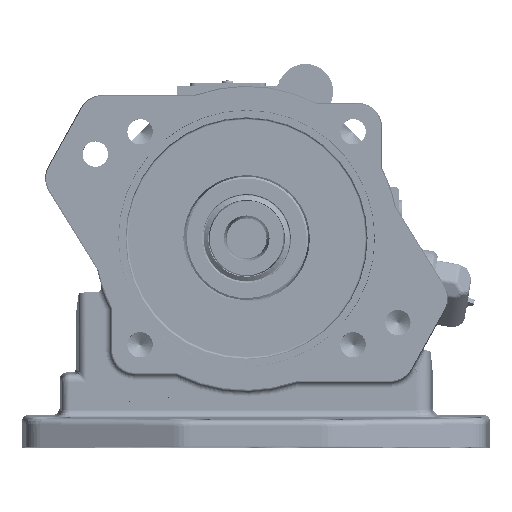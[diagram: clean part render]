
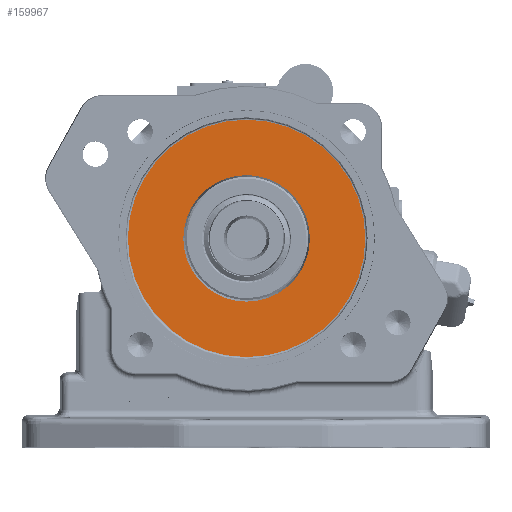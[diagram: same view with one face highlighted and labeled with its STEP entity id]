
A CAD part, top view. The second image highlights one B-rep face of the part: STEP entity #159967.
In plain terms, the highlighted planar face has unit normal (0, 0, 1) as drawn and (0, 0, -1) by its records, which use the part's own axes.
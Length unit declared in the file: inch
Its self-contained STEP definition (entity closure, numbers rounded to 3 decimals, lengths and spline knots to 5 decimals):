
#1433 = CARTESIAN_POINT ( 'NONE',  ( 1.5019, -3.5484, 0.2921 ) ) ;
#2120 = DIRECTION ( 'NONE',  ( 0., 0., 1. ) ) ;
#9717 = EDGE_CURVE ( 'NONE', #13528, #71505, #115402, .T. ) ;
#13528 = VERTEX_POINT ( 'NONE', #44363 ) ;
#16499 = CIRCLE ( 'NONE', #76186, 1.05079 ) ;
#27671 = DIRECTION ( 'NONE',  ( 0., 0., 1. ) ) ;
#34186 = DIRECTION ( 'NONE',  ( 0., 0., -1. ) ) ;
#43147 = EDGE_LOOP ( 'NONE', ( #145516, #135644 ) ) ;
#44363 = CARTESIAN_POINT ( 'NONE',  ( 4.52369, -3.5484, 0.2921 ) ) ;
#46418 = CARTESIAN_POINT ( 'NONE',  ( 2.42211, -3.5484, 0.2921 ) ) ;
#47348 = AXIS2_PLACEMENT_3D ( 'NONE', #60820, #154120, #189329 ) ;
#52901 = DIRECTION ( 'NONE',  ( 1., 0., 0. ) ) ;
#58198 = EDGE_LOOP ( 'NONE', ( #171182, #133157 ) ) ;
#60820 = CARTESIAN_POINT ( 'NONE',  ( 5.4739, -3.5484, 0.2921 ) ) ;
#68852 = VERTEX_POINT ( 'NONE', #1433 ) ;
#68936 = CIRCLE ( 'NONE', #128382, 1.971 ) ;
#71505 = VERTEX_POINT ( 'NONE', #46418 ) ;
#74900 = CARTESIAN_POINT ( 'NONE',  ( 5.4439, -3.5484, 0.2921 ) ) ;
#76186 = AXIS2_PLACEMENT_3D ( 'NONE', #170723, #27671, #155150 ) ;
#84932 = DIRECTION ( 'NONE',  ( 1., 0., 0. ) ) ;
#85493 = VERTEX_POINT ( 'NONE', #74900 ) ;
#88718 = EDGE_CURVE ( 'NONE', #68852, #85493, #89629, .T. ) ;
#88849 = FACE_BOUND ( 'NONE', #43147, .T. ) ;
#89629 = CIRCLE ( 'NONE', #199031, 1.971 ) ;
#98565 = DIRECTION ( 'NONE',  ( 0., 0., -1. ) ) ;
#99580 = CARTESIAN_POINT ( 'NONE',  ( 3.4729, -3.5484, 0.2921 ) ) ;
#100535 = CARTESIAN_POINT ( 'NONE',  ( 3.4729, -3.5484, 0.2921 ) ) ;
#113976 = CARTESIAN_POINT ( 'NONE',  ( 3.4729, -3.5484, 0.2921 ) ) ;
#115402 = CIRCLE ( 'NONE', #125300, 1.05079 ) ;
#122010 = PLANE ( 'NONE',  #47348 ) ;
#125300 = AXIS2_PLACEMENT_3D ( 'NONE', #100535, #2120, #52901 ) ;
#128382 = AXIS2_PLACEMENT_3D ( 'NONE', #113976, #34186, #84932 ) ;
#130506 = EDGE_CURVE ( 'NONE', #85493, #68852, #68936, .T. ) ;
#133157 = ORIENTED_EDGE ( 'NONE', *, *, #88718, .T. ) ;
#135644 = ORIENTED_EDGE ( 'NONE', *, *, #9717, .T. ) ;
#145516 = ORIENTED_EDGE ( 'NONE', *, *, #199964, .T. ) ;
#154120 = DIRECTION ( 'NONE',  ( 0., 0., 1. ) ) ;
#155150 = DIRECTION ( 'NONE',  ( 1., 0., 0. ) ) ;
#159967 = ADVANCED_FACE ( 'NONE', ( #88849, #187311 ), #122010, .F. ) ;
#170723 = CARTESIAN_POINT ( 'NONE',  ( 3.4729, -3.5484, 0.2921 ) ) ;
#171182 = ORIENTED_EDGE ( 'NONE', *, *, #130506, .T. ) ;
#187311 = FACE_OUTER_BOUND ( 'NONE', #58198, .T. ) ;
#189329 = DIRECTION ( 'NONE',  ( 1., 0., 0. ) ) ;
#193978 = DIRECTION ( 'NONE',  ( 1., 0., 0. ) ) ;
#199031 = AXIS2_PLACEMENT_3D ( 'NONE', #99580, #98565, #193978 ) ;
#199964 = EDGE_CURVE ( 'NONE', #71505, #13528, #16499, .T. ) ;
